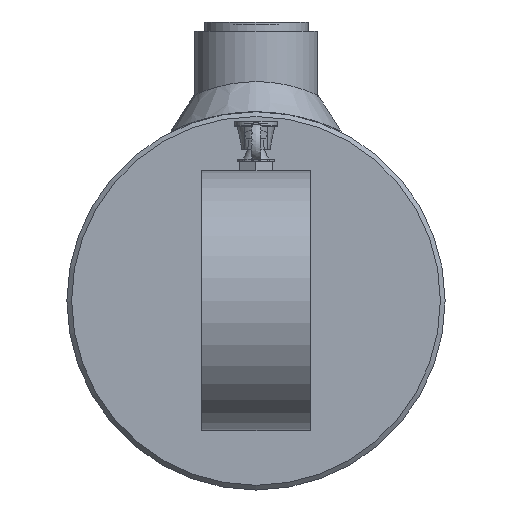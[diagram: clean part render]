
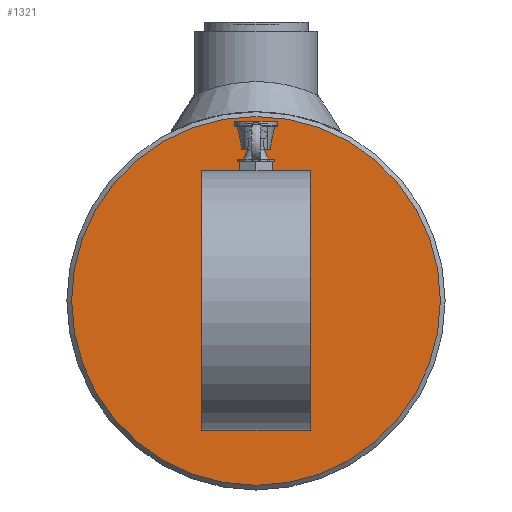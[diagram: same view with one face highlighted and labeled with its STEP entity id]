
A CAD part, left-side view. The second image highlights one B-rep face of the part: STEP entity #1321.
In plain terms, the highlighted planar face has unit normal (-1, 0, 0).
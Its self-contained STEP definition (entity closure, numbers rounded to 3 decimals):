
#1321 = ADVANCED_FACE( '', ( #2485 ), #2486, .T. );
#2485 = FACE_OUTER_BOUND( '', #6327, .T. );
#2486 = PLANE( '', #6328 );
#6327 = EDGE_LOOP( '', ( #8531 ) );
#6328 = AXIS2_PLACEMENT_3D( '', #8532, #8533, #8534 );
#8531 = ORIENTED_EDGE( '', *, *, #9632, .T. );
#8532 = CARTESIAN_POINT( '', ( -12., 0., 0. ) );
#8533 = DIRECTION( '', ( -1., 0., 0. ) );
#8534 = DIRECTION( '', ( 0., -1., 0. ) );
#9632 = EDGE_CURVE( '', #10752, #10752, #10753, .T. );
#10752 = VERTEX_POINT( '', #13138 );
#10753 = CIRCLE( '', #13139, 39. );
#13138 = CARTESIAN_POINT( '', ( -12., -39., 0. ) );
#13139 = AXIS2_PLACEMENT_3D( '', #14068, #14069, #14070 );
#14068 = CARTESIAN_POINT( '', ( -12., 0., 0. ) );
#14069 = DIRECTION( '', ( -1., 0., 0. ) );
#14070 = DIRECTION( '', ( 0., -1., 0. ) );
